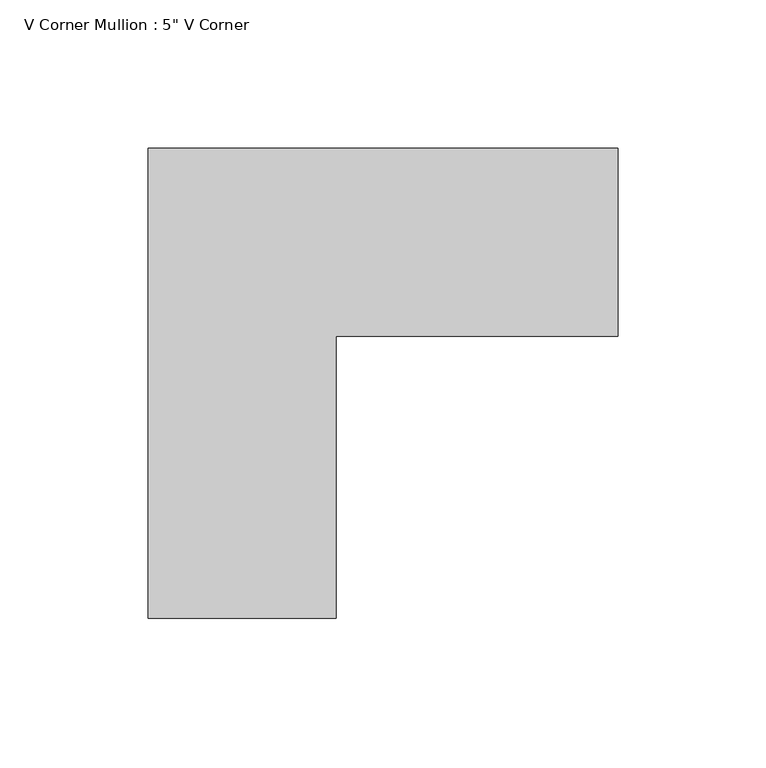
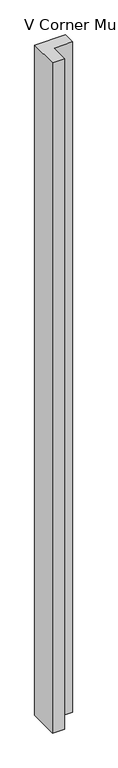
"""IFC4 building model written with IfcOpenShell, lengths in millimetres: member geometry."""

from ifc_helpers import new_model, si_unit, frame, origin, place, context, project, spatial, polyline, outline, extrude, source, transform, mapped, element, save


def member_2d9278dd(model_context):
    return source(origin(), model_context, "Body", "SweptSolid", [
        extrude(outline(polyline([(63.5, 31.75), (-31.75, 31.75), (-31.75, -63.5), (-95.25, -63.5), (-95.25, 95.25), (63.5, 95.25), (63.5, 31.75)])), frame((0.0, 0.0, -3657.6), z_axis=(0.0, 0.0, 1.0), x_axis=(1.0, 0.0, 0.0)), (0.0, 0.0, 1.0), 3657.6),
    ])


if __name__ == "__main__":
    model = new_model("IFC4")
    model_context = context("Model", 3, world=origin())
    ifc_project = project(units=[si_unit("LENGTHUNIT", "METRE", prefix="MILLI")], contexts=[model_context])
    site = spatial("IfcSite", under=ifc_project)
    building = spatial("IfcBuilding", under=site)
    placement = place(None, origin())
    member_shape = member_2d9278dd(model_context)
    element("IfcMember", 1, ObjectType="V Corner Mullion : 5\" V Corner", at=placement, inside=building, context=model_context, shape_type="MappedRepresentation", body=[
        mapped(member_shape, transform((0.0, 0.0, 0.0), x_axis=(1.0, 0.0, 0.0), y_axis=(0.0, 1.0, 0.0), z_axis=(0.0, 0.0, 1.0))),
    ])
    save(model, "model.ifc")
